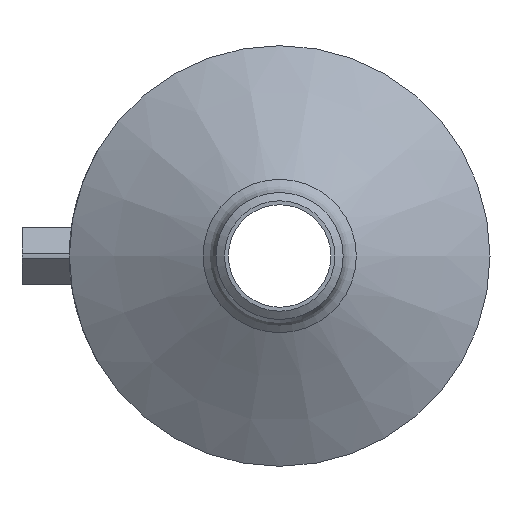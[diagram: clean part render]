
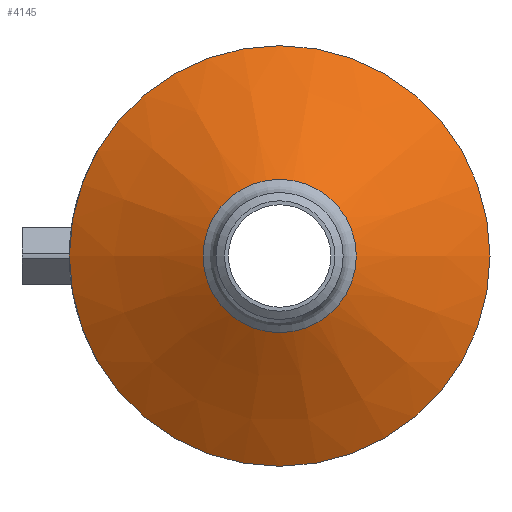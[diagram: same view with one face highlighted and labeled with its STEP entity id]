
A CAD part, left-side view. The second image highlights one B-rep face of the part: STEP entity #4145.
In plain terms, the highlighted conical face has half-angle 60 degrees and reference radius 54.575 mm.
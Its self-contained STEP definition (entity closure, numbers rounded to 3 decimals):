
#4111=CARTESIAN_POINT('',(-54.358,-29.15,0.0));
#4112=VERTEX_POINT('',#4111);
#4113=CARTESIAN_POINT('',(-54.358,0.0,0.0));
#4114=DIRECTION('',(1.0,0.0,0.0));
#4115=DIRECTION('',(0.0,-1.0,0.0));
#4116=AXIS2_PLACEMENT_3D('',#4113,#4114,#4115);
#4117=CIRCLE('',#4116,29.15);
#4118=EDGE_CURVE('',#4112,#4112,#4117,.T.);
#4126=CARTESIAN_POINT('',(-39.679,0.0,0.0));
#4127=DIRECTION('',(1.0,0.0,0.0));
#4128=DIRECTION('',(0.0,-1.0,0.0));
#4129=AXIS2_PLACEMENT_3D('',#4126,#4127,#4128);
#4130=CONICAL_SURFACE('',#4129,54.575,60.);
#4131=CARTESIAN_POINT('',(-25.,-80.0,0.0));
#4132=VERTEX_POINT('',#4131);
#4133=CARTESIAN_POINT('',(-25.,0.0,0.0));
#4134=DIRECTION('',(1.0,0.0,0.0));
#4135=DIRECTION('',(0.0,-1.0,0.0));
#4136=AXIS2_PLACEMENT_3D('',#4133,#4134,#4135);
#4137=CIRCLE('',#4136,80.0);
#4138=EDGE_CURVE('',#4132,#4132,#4137,.T.);
#4139=ORIENTED_EDGE('',*,*,#4138,.F.);
#4140=EDGE_LOOP('',(#4139));
#4141=FACE_OUTER_BOUND('',#4140,.T.);
#4142=ORIENTED_EDGE('',*,*,#4118,.T.);
#4143=EDGE_LOOP('',(#4142));
#4144=FACE_BOUND('',#4143,.T.);
#4145=ADVANCED_FACE('',(#4141,#4144),#4130,.T.);
